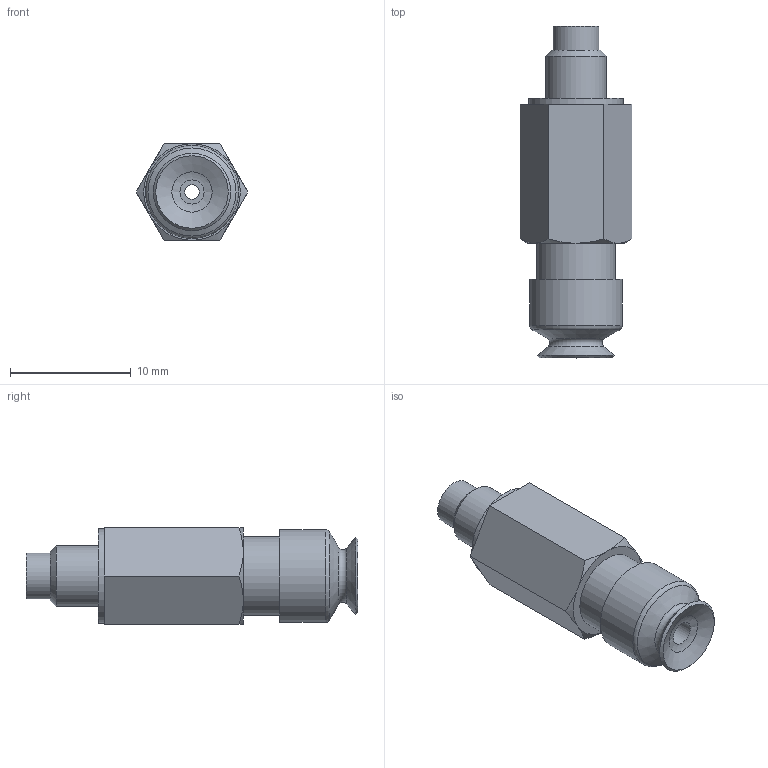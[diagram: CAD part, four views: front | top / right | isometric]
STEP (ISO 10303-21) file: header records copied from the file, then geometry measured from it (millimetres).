
FILE_DESCRIPTION(('STEP AP203'),'1');
FILE_NAME('.stp','2025-04-07T02:39:09',(' '),(' '),'Spatial InterOp 3D',' ',' ');
FILE_SCHEMA(('CONFIG_CONTROL_DESIGN'));
Length unit declared in the file: millimetre
Products named in the file (4): BPSS-L3-BPFG-6A-※; BPSS-7-L3-M; BPSS-7-L3-F; BPFG-6A-※
Assembly tree (3 placements, depth 2):
  BPSS-L3-BPFG-6A-※
    BPSS-7-L3-M
    BPSS-7-L3-F
    BPFG-6A-※
Bounding box: 9.24 x 27.5 x 8 mm (x, y, z)
Volume: 965.7 mm3; surface area: 1589.5 mm2
Topology: 3 solids, 3 shells, 54 faces, 102 edges, 63 vertices
Faces by surface type: plane 21, cylinder 15, cone 11, torus 6, bspline 1
Full cylindrical faces by diameter (mm): 1.2 x1, 2 x1, 2.4 x2, 3.4 x1, 3.8 x1, 4 x2, 5 x1, 6 x2, 6.5 x2, 7.7 x1, 7.8 x1
Entity records: 1417 total; most frequent: CARTESIAN_POINT 239, DIRECTION 220, ORIENTED_EDGE 142, AXIS2_PLACEMENT_3D 104, EDGE_LOOP 96, FACE_OUTER_BOUND 76, EDGE_CURVE 71, VERTEX_POINT 59
